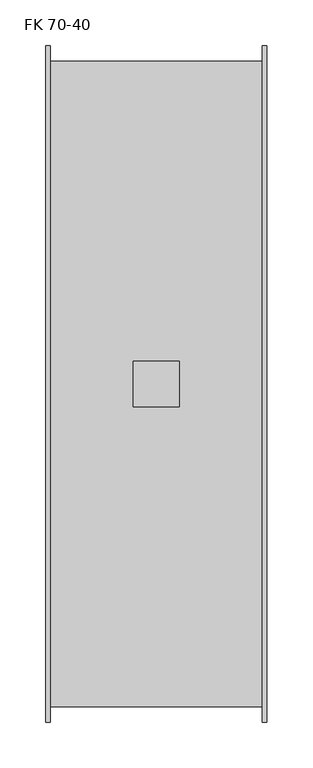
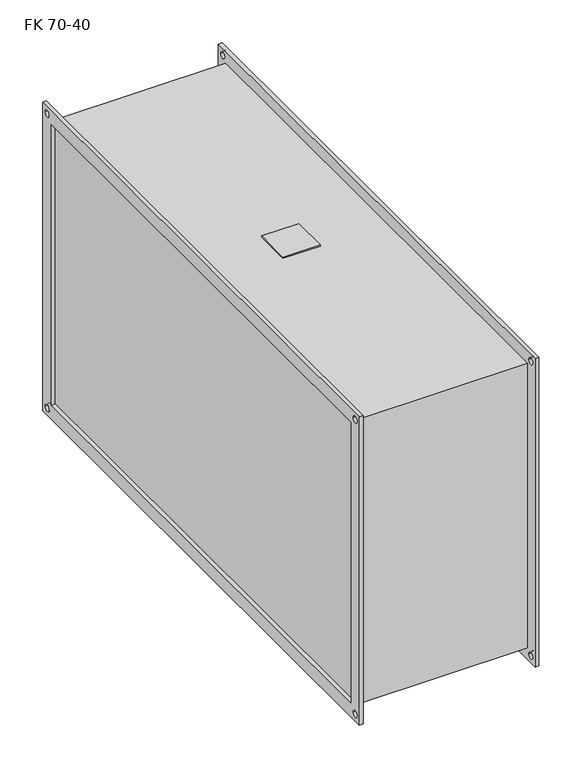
"""IFC4 building model written with IfcOpenShell, lengths in millimetres: damper geometry, KORF_Фильтр_Кассетный_FK : FK 70-40."""

from ifc_helpers import new_model, si_unit, point, frame, frame_2d, origin, place, context, project, spatial, polyline, circle_curve, trimmed, segment, composite_curve, outline, extrude, source, transform, mapped, element, save


def fk_70_40_5eea0806(model_context):
    return source(origin(), model_context, "Body", "SweptSolid", [
        extrude(outline(polyline([(96.0, -25.0), (96.0, 25.0), (146.0, 25.0), (146.0, -25.0), (96.0, -25.0)])), frame((0.0, 0.0, 203.0), z_axis=(0.0, 0.0, 1.0), x_axis=(1.0, 0.0, 0.0)), (0.0, 0.0, 1.0), 2.0),
        extrude(outline(polyline([(-370.0, 220.0), (370.0, 220.0), (370.0, -220.0), (-370.0, -220.0), (-370.0, 220.0)]), holes=[polyline([(-350.0, 200.0), (-350.0, -200.0), (350.0, -200.0), (350.0, 200.0), (-350.0, 200.0)]), composite_curve([segment(trimmed(circle_curve(frame_2d((360.0, 210.0)), 4.5), [point((355.5, 210.0))], [point((364.5, 210.0))], True, "CARTESIAN"), True, "CONTINUOUS"), segment(trimmed(circle_curve(frame_2d((360.0, 210.0)), 4.5), [point((364.5, 210.0))], [point((355.5, 210.0))], True, "CARTESIAN"), True, "CONTINUOUS")], self_intersect=False), composite_curve([segment(trimmed(circle_curve(frame_2d((-360.0, 210.0)), 4.5), [point((-364.5, 210.0))], [point((-355.5, 210.0))], True, "CARTESIAN"), True, "CONTINUOUS"), segment(trimmed(circle_curve(frame_2d((-360.0, 210.0)), 4.5), [point((-355.5, 210.0))], [point((-364.5, 210.0))], True, "CARTESIAN"), True, "CONTINUOUS")], self_intersect=False), composite_curve([segment(trimmed(circle_curve(frame_2d((-360.0, -210.0)), 4.5), [point((-364.5, -210.0))], [point((-355.5, -210.0))], True, "CARTESIAN"), True, "CONTINUOUS"), segment(trimmed(circle_curve(frame_2d((-360.0, -210.0)), 4.5), [point((-355.5, -210.0))], [point((-364.5, -210.0))], True, "CARTESIAN"), True, "CONTINUOUS")], self_intersect=False), composite_curve([segment(trimmed(circle_curve(frame_2d((360.0, -210.0)), 4.5), [point((355.5, -210.0))], [point((364.5, -210.0))], True, "CARTESIAN"), True, "CONTINUOUS"), segment(trimmed(circle_curve(frame_2d((360.0, -210.0)), 4.5), [point((364.5, -210.0))], [point((355.5, -210.0))], True, "CARTESIAN"), True, "CONTINUOUS")], self_intersect=False)]), frame((237.0, 0.0, 0.0), z_axis=(1.0, 0.0, 0.0), x_axis=(0.0, 1.0, 0.0)), (0.0, 0.0, 1.0), 5.0),
        extrude(outline(polyline([(-370.0, 220.0), (370.0, 220.0), (370.0, -220.0), (-370.0, -220.0), (-370.0, 220.0)]), holes=[polyline([(-350.0, 200.0), (-350.0, -200.0), (350.0, -200.0), (350.0, 200.0), (-350.0, 200.0)]), composite_curve([segment(trimmed(circle_curve(frame_2d((360.0, 210.0)), 4.5), [point((355.5, 210.0))], [point((364.5, 210.0))], True, "CARTESIAN"), True, "CONTINUOUS"), segment(trimmed(circle_curve(frame_2d((360.0, 210.0)), 4.5), [point((364.5, 210.0))], [point((355.5, 210.0))], True, "CARTESIAN"), True, "CONTINUOUS")], self_intersect=False), composite_curve([segment(trimmed(circle_curve(frame_2d((-360.0, 210.0)), 4.5), [point((-364.5, 210.0))], [point((-355.5, 210.0))], True, "CARTESIAN"), True, "CONTINUOUS"), segment(trimmed(circle_curve(frame_2d((-360.0, 210.0)), 4.5), [point((-355.5, 210.0))], [point((-364.5, 210.0))], True, "CARTESIAN"), True, "CONTINUOUS")], self_intersect=False), composite_curve([segment(trimmed(circle_curve(frame_2d((-360.0, -210.0)), 4.5), [point((-364.5, -210.0))], [point((-355.5, -210.0))], True, "CARTESIAN"), True, "CONTINUOUS"), segment(trimmed(circle_curve(frame_2d((-360.0, -210.0)), 4.5), [point((-355.5, -210.0))], [point((-364.5, -210.0))], True, "CARTESIAN"), True, "CONTINUOUS")], self_intersect=False), composite_curve([segment(trimmed(circle_curve(frame_2d((360.0, -210.0)), 4.5), [point((355.5, -210.0))], [point((364.5, -210.0))], True, "CARTESIAN"), True, "CONTINUOUS"), segment(trimmed(circle_curve(frame_2d((360.0, -210.0)), 4.5), [point((364.5, -210.0))], [point((355.5, -210.0))], True, "CARTESIAN"), True, "CONTINUOUS")], self_intersect=False)]), frame((0.0, 0.0, 0.0), z_axis=(1.0, 0.0, 0.0), x_axis=(0.0, 1.0, 0.0)), (0.0, 0.0, 1.0), 5.0),
        extrude(outline(polyline([(237.0, 353.0), (237.0, -353.0), (5.0, -353.0), (5.0, 353.0), (237.0, 353.0)])), frame((0.0, 0.0, -203.0), z_axis=(0.0, 0.0, 1.0), x_axis=(1.0, 0.0, 0.0)), (0.0, 0.0, 1.0), 406.0),
    ])


if __name__ == "__main__":
    model = new_model("IFC4")
    model_context = context("Model", 3, world=origin())
    ifc_project = project(units=[si_unit("LENGTHUNIT", "METRE", prefix="MILLI")], contexts=[model_context])
    site = spatial("IfcSite", under=ifc_project)
    building = spatial("IfcBuilding", under=site)
    placement = place(None, origin())
    fk_70_40_shape = fk_70_40_5eea0806(model_context)
    element("IfcDamper", 1, ObjectType="KORF_Фильтр_Кассетный_FK : FK 70-40", at=placement, inside=building, context=model_context, shape_type="MappedRepresentation", body=[
        mapped(fk_70_40_shape, transform((0.0, 0.0, 0.0), x_axis=(1.0, 0.0, 0.0), y_axis=(0.0, 1.0, 0.0), z_axis=(0.0, 0.0, 1.0))),
    ])
    save(model, "model.ifc")
